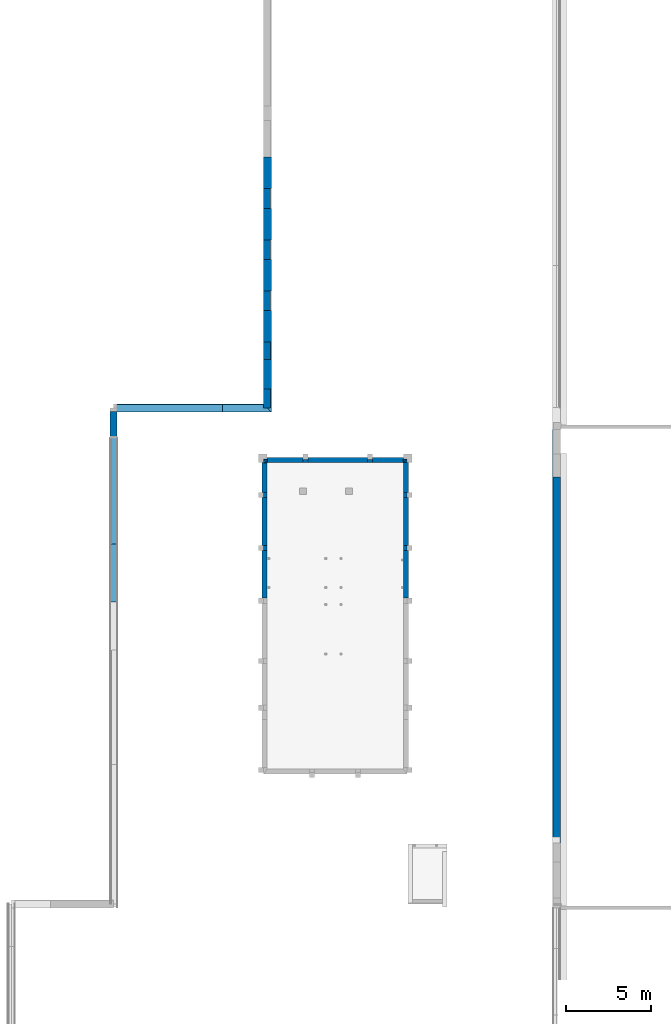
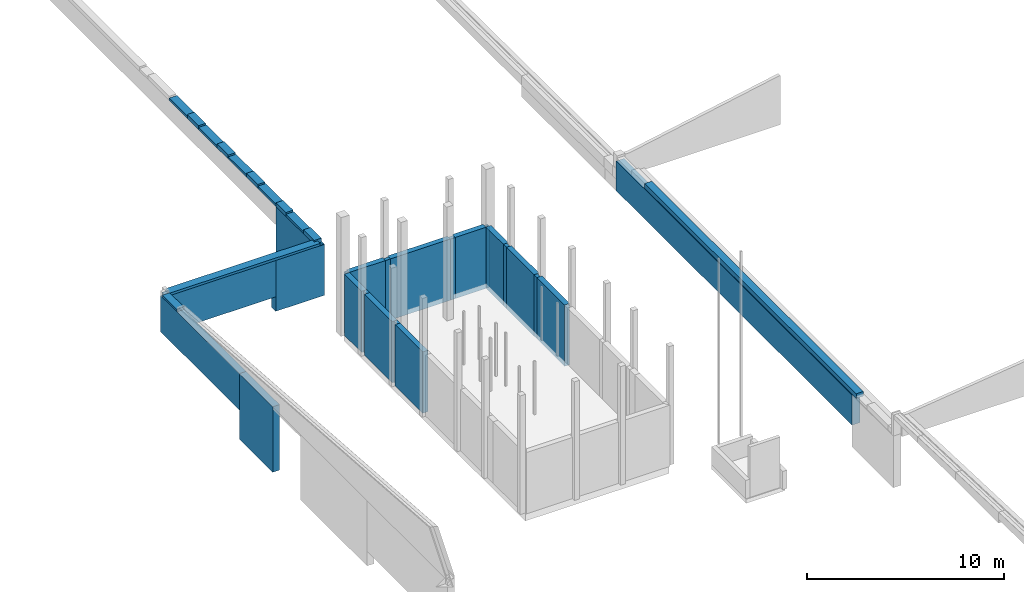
# One storey, part 3 of 17: 38 walls.
"""IFC2X3 building model written with IfcOpenShell, lengths in millimetres."""

import ifcopenshell
import ifcopenshell.guid

model = None  # the IFC model being written
_history = None  # IfcOwnerHistory: only IFC2X3 demands one
_inside = {}  # id of a spatial element -> (the spatial element, [elements in it])
_under = {}  # id of a project, library or spatial element -> (it, [spatial elements below it])
_declared = {}  # id of a project -> (the project, [libraries it declares])
_typed = {}  # id of a type object -> (the type object, [elements of that type])
_made_of = {}  # id of a material, layer set ... -> (it, [elements and type objects made of it])


def new_model(schema):
    """Start an empty IFC model of exactly this schema.

    Asked for "IFC4X3", IfcOpenShell would pick the latest addendum, in which some entities
    have other attributes; the version numbers below select the first issue.
    IFC2X3 requires an IfcOwnerHistory on every rooted entity: one is made here for all.
    """
    global model, _history
    if schema == "IFC4X3":
        model = ifcopenshell.file(schema_version=(4, 3, 0, 0))
    else:
        model = ifcopenshell.file(schema=schema)
    _inside.clear()
    _under.clear()
    _declared.clear()
    _typed.clear()
    _made_of.clear()
    _history = None
    if model.schema == "IFC2X3":
        org = make("IfcOrganization", Name="unknown")
        user = make(
            "IfcPersonAndOrganization",
            ThePerson=make("IfcPerson", FamilyName="unknown"),
            TheOrganization=org,
        )
        app = make(
            "IfcApplication",
            ApplicationDeveloper=org,
            Version="unknown",
            ApplicationFullName="unknown",
            ApplicationIdentifier="unknown",
        )
        _history = make(
            "IfcOwnerHistory",
            OwningUser=user,
            OwningApplication=app,
            ChangeAction="ADDED",
            CreationDate=0,
        )
    return model


def make(cls, **values):
    """One entity of the class cls with the attributes given. An attribute that is None is left unset."""
    return model.create_entity(
        cls, **{name: value for name, value in values.items() if value is not None}
    )


def entity(cls, *values):
    """Any entity or typed value of the class cls, its attributes in the order of the schema. None: left unset."""
    e = model.create_entity(cls)
    for i, value in enumerate(values):
        if value is not None:
            e[i] = value
    return e


def rooted(cls, **values):
    """An entity with a GlobalId (a new one), such as an element, a storey or a relation."""
    return make(cls, GlobalId=ifcopenshell.guid.new(), OwnerHistory=_history, **values)


def si_unit(unit_type, name, prefix=None):
    """IfcSIUnit, for example si_unit("LENGTHUNIT", "METRE", prefix="MILLI")."""
    return make("IfcSIUnit", UnitType=unit_type, Prefix=prefix, Name=name)


def converted_unit(unit_type, name, factor, base, dimensions=None, offset=None):
    """IfcConversionBasedUnit, such as the inch: factor (a typed value) times the base unit."""
    return make(
        "IfcConversionBasedUnit"
        if offset is None
        else "IfcConversionBasedUnitWithOffset",
        ConversionOffset=offset,
        Dimensions=None
        if dimensions is None
        else entity("IfcDimensionalExponents", *dimensions),
        UnitType=unit_type,
        Name=name,
        ConversionFactor=make(
            "IfcMeasureWithUnit", ValueComponent=factor, UnitComponent=base
        ),
    )


def derived_unit(unit_type, elements):
    """IfcDerivedUnit: a product of units, each with its exponent."""
    return make(
        "IfcDerivedUnit",
        Elements=[
            make("IfcDerivedUnitElement", Unit=unit, Exponent=power)
            for unit, power in elements
        ],
        UnitType=unit_type,
    )


def money_unit(currency):
    """IfcMonetaryUnit."""
    return make("IfcMonetaryUnit", Currency=currency)


def assignment(units):
    """IfcUnitAssignment: the units of a project."""
    return None if units is None else make("IfcUnitAssignment", Units=units)


def point(xyz):
    """IfcCartesianPoint."""
    return None if xyz is None else make("IfcCartesianPoint", Coordinates=xyz)


def direction(xyz):
    """IfcDirection."""
    return None if xyz is None else make("IfcDirection", DirectionRatios=xyz)


def frame(location, z_axis=None, x_axis=None):
    """IfcAxis2Placement3D, a coordinate frame: its origin and axes. An axis left out is left unset."""
    return make(
        "IfcAxis2Placement3D",
        Location=point(location),
        Axis=direction(z_axis),
        RefDirection=direction(x_axis),
    )


def origin_with_axes():
    """The frame at (0, 0, 0) with the z axis (0, 0, 1) and the x axis (1, 0, 0) written out."""
    return frame((0.0, 0.0, 0.0), z_axis=(0.0, 0.0, 1.0), x_axis=(1.0, 0.0, 0.0))


def place(relative_to, where):
    """IfcLocalPlacement: puts the frame where relative to a parent placement (None: the world)."""
    return make(
        "IfcLocalPlacement", PlacementRelTo=relative_to, RelativePlacement=where
    )


def context(
    kind, dimensions, precision=None, world=None, true_north=None, identifier=None
):
    """IfcGeometricRepresentationContext, for example the 3D "Model" context."""
    return make(
        "IfcGeometricRepresentationContext",
        ContextIdentifier=identifier,
        ContextType=kind,
        CoordinateSpaceDimension=dimensions,
        Precision=precision,
        WorldCoordinateSystem=world,
        TrueNorth=true_north,
    )


def subcontext(parent, identifier, kind, view, scale=None):
    """IfcGeometricRepresentationSubContext, for example "Body" below "Model"."""
    return make(
        "IfcGeometricRepresentationSubContext",
        ContextIdentifier=identifier,
        ContextType=kind,
        ParentContext=parent,
        TargetScale=scale,
        TargetView=view,
    )


def project(units=None, contexts=None):
    """IfcProject with its units and contexts."""
    return rooted(
        "IfcProject",
        Name="project",
        RepresentationContexts=contexts,
        UnitsInContext=assignment(units),
    )


def spatial(cls, under=None, at=None, **own):
    """A site, building, storey or space (cls), placed at a placement, below another one or the project."""
    s = rooted(cls, ObjectPlacement=at, **own)
    if under is not None:
        _under.setdefault(under.id(), (under, []))[1].append(s)
    return s


def polyline(points):
    """IfcPolyline through the points."""
    return make("IfcPolyline", Points=[point(p) for p in points])


def outline(outer, holes=None, kind="AREA"):
    """IfcArbitraryClosedProfileDef: a profile drawn as a closed curve; with holes, ...WithVoids."""
    if holes is None:
        return make("IfcArbitraryClosedProfileDef", ProfileType=kind, OuterCurve=outer)
    return make(
        "IfcArbitraryProfileDefWithVoids",
        ProfileType=kind,
        OuterCurve=outer,
        InnerCurves=holes,
    )


def extrude(swept, where, along, depth):
    """IfcExtrudedAreaSolid: the profile swept, set in the frame where, extruded along a direction by depth."""
    return make(
        "IfcExtrudedAreaSolid",
        SweptArea=swept,
        Position=where,
        ExtrudedDirection=direction(along),
        Depth=depth,
    )


def shape(context_of_items, identifier, shape_type, items):
    """IfcShapeRepresentation: the items that make up one representation, for example the "Body"."""
    return make(
        "IfcShapeRepresentation",
        ContextOfItems=context_of_items,
        RepresentationIdentifier=identifier,
        RepresentationType=shape_type,
        Items=items,
    )


def material(Name=None, Category=None):
    """IfcMaterial."""
    return make("IfcMaterial", Name=Name, Category=Category)


def layer(
    of_material, thickness, ventilated=None, Name=None, Category=None, Priority=None
):
    """IfcMaterialLayer: one layer of a wall or slab, of a material (None: an air gap)."""
    return make(
        "IfcMaterialLayer",
        Material=of_material,
        LayerThickness=thickness,
        IsVentilated=ventilated,
        Name=Name,
        Category=Category,
        Priority=Priority,
    )


def layer_set(layers, Name=None):
    """IfcMaterialLayerSet."""
    return make("IfcMaterialLayerSet", MaterialLayers=layers, LayerSetName=Name)


def layer_usage(for_layer_set, set_direction, sense, offset, extent=None):
    """IfcMaterialLayerSetUsage: how a layer set lies in its element."""
    return make(
        "IfcMaterialLayerSetUsage",
        ForLayerSet=for_layer_set,
        LayerSetDirection=set_direction,
        DirectionSense=sense,
        OffsetFromReferenceLine=offset,
        ReferenceExtent=extent,
    )


def made_of(thing, what):
    """Note that an element or type object is made of a material, layer set ...; save() writes the relation."""
    if what is not None:
        _made_of.setdefault(what.id(), (what, []))[1].append(thing)
    return thing


def type_object(cls, material=None, **own):
    """A type object (cls), such as IfcWallType, which elements share."""
    return made_of(rooted(cls, **own), material)


def element(
    cls,
    number,
    at=None,
    inside=None,
    cuts=None,
    type_object=None,
    material=None,
    context=None,
    identifier="Body",
    shape_type=None,
    held_by="IfcProductDefinitionShape",
    body=None,
    shapes=None,
    **own,
):
    """One element of the class cls, such as IfcWall. Its Tag is "e" and its number.

    at: its placement. inside: the storey or other place that contains it. cuts: it is an
    opening in that element (IfcRelVoidsElement). A single representation is given by context,
    identifier, shape_type and body (its items); several are given by shapes. held_by: the class
    of the entity that holds the representations. save() writes the other relations.
    """
    e = rooted(cls, Tag="e%d" % number, ObjectPlacement=at, **own)
    if body is not None:
        shapes = [shape(context, identifier, shape_type, body)]
    if shapes is not None:
        e.Representation = make(held_by, Representations=shapes)
    if inside is not None:
        _inside.setdefault(inside.id(), (inside, []))[1].append(e)
    if cuts is not None:
        rooted(
            "IfcRelVoidsElement", RelatingBuildingElement=cuts, RelatedOpeningElement=e
        )
    if type_object is not None:
        _typed.setdefault(type_object.id(), (type_object, []))[1].append(e)
    return made_of(e, material)


def aggregate(whole, parts):
    """IfcRelAggregates: a whole, such as a stair, and the parts it consists of."""
    return rooted("IfcRelAggregates", RelatingObject=whole, RelatedObjects=parts)


def save(model, path):
    """Write the relations noted so far, then the file.

    IfcRelAggregates (storeys below a building ...), IfcRelContainedInSpatialStructure (elements
    in a storey), IfcRelDefinesByType, IfcRelAssociatesMaterial and IfcRelDeclares: one each for
    every whole, place, type object, material and project.
    """
    for whole, parts in _under.values():
        aggregate(whole, parts)
    for where, things in _inside.values():
        rooted(
            "IfcRelContainedInSpatialStructure",
            RelatedElements=things,
            RelatingStructure=where,
        )
    for kind, things in _typed.values():
        rooted("IfcRelDefinesByType", RelatedObjects=things, RelatingType=kind)
    for what, things in _made_of.values():
        rooted("IfcRelAssociatesMaterial", RelatedObjects=things, RelatingMaterial=what)
    for by, libraries in _declared.values():
        rooted("IfcRelDeclares", RelatingContext=by, RelatedDefinitions=libraries)
    model.write(path)


model = new_model("IFC2X3")

# Units and contexts
model_context = context("Model", 3, precision=0.01, world=origin_with_axes(), true_north=direction((0.0, 1.0)))
body_context = subcontext(model_context, "Body", "Model", "MODEL_VIEW")
ifc_project = project(units=[si_unit("LENGTHUNIT", "METRE", prefix="MILLI"), si_unit("AREAUNIT", "SQUARE_METRE"), si_unit("VOLUMEUNIT", "CUBIC_METRE"), converted_unit("PLANEANGLEUNIT", "DEGREE", entity("IfcPlaneAngleMeasure", 0.0174532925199), si_unit("PLANEANGLEUNIT", "RADIAN"), dimensions=[0, 0, 0, 0, 0, 0, 0]), si_unit("SOLIDANGLEUNIT", "STERADIAN"), money_unit("EUR"), converted_unit("TIMEUNIT", "Year", entity("IfcTimeMeasure", 31556926.0), si_unit("TIMEUNIT", "SECOND"), dimensions=[0, 0, 1, 0, 0, 0, 0]), si_unit("MASSUNIT", "GRAM", prefix="KILO"), si_unit("THERMODYNAMICTEMPERATUREUNIT", "DEGREE_CELSIUS"), si_unit("LUMINOUSINTENSITYUNIT", "LUMEN"), si_unit("ENERGYUNIT", "JOULE", prefix="MEGA"), derived_unit("THERMALCONDUCTANCEUNIT", [(si_unit("POWERUNIT", "WATT"), 1), (si_unit("LENGTHUNIT", "METRE"), -1), (si_unit("THERMODYNAMICTEMPERATUREUNIT", "KELVIN"), -1)]), derived_unit("SPECIFICHEATCAPACITYUNIT", [(si_unit("ENERGYUNIT", "JOULE"), 1), (si_unit("MASSUNIT", "GRAM", prefix="KILO"), -1), (si_unit("THERMODYNAMICTEMPERATUREUNIT", "KELVIN"), -1)]), derived_unit("MASSDENSITYUNIT", [(si_unit("MASSUNIT", "GRAM", prefix="KILO"), 1), (si_unit("VOLUMEUNIT", "CUBIC_METRE"), -1)])], contexts=[model_context])

# Site, building, storey
site_placement = place(None, origin_with_axes())
site = spatial("IfcSite", under=ifc_project, at=site_placement, Name="Puškini 31, Narva", CompositionType="ELEMENT")
building_placement = place(site_placement, origin_with_axes())
building = spatial("IfcBuilding", under=site, at=building_placement, Name="Narva Riigigümnaasium", CompositionType="ELEMENT")
storey_placement = place(building_placement, frame((0.0, 0.0, -6800.0), z_axis=(0.0, 0.0, 1.0), x_axis=(1.0, 0.0, 0.0)))
storey = spatial("IfcBuildingStorey", under=building, at=storey_placement, Name="0.korrus -6.8", CompositionType="ELEMENT", Elevation=-6800.0)

# Walls
ifc_material_1 = material(Name="Betoon element")
ifc_layer_1 = layer(ifc_material_1, 200.0, ventilated="UNKNOWN")
ifc_layer_set_1 = layer_set([ifc_layer_1], Name="G-SS-01")
ifc_layer_usage_1 = layer_usage(ifc_layer_set_1, "AXIS2", "NEGATIVE", 0.0)
wall_type_1 = type_object("IfcWallType", Name="G-SS-01 200", PredefinedType="NOTDEFINED")
wall_1_placement = place(storey_placement, frame((37000.0003625, 220780.000218, -290.0), z_axis=(0.0, 0.0, 1.0), x_axis=(-7.28230849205e-07, 1.0, 0.0)))
element("IfcWallStandardCase", 1, at=wall_1_placement, inside=storey, type_object=wall_type_1, material=ifc_layer_usage_1, Name="Sisesein", context=body_context, shape_type="SweptSolid", body=[
    extrude(outline(polyline([(0.0, -200.0), (199.999774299, 0.0), (0.0, 0.0), (0.0, -200.0)])), origin_with_axes(), (0.0, 0.0, 1.0), 3790.0),
])
wall_2_placement = place(storey_placement, frame((43100.0000489, 220979.999993, -290.0), z_axis=(0.0, 0.0, 1.0), x_axis=(1.0, 0.0, 0.0)))
element("IfcWallStandardCase", 2, at=wall_2_placement, inside=storey, type_object=wall_type_1, material=ifc_layer_usage_1, Name="Sisesein", context=body_context, shape_type="SweptSolid", body=[
    extrude(outline(polyline([(0.0, -200.0), (299.999997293, -200.0), (299.999999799, 0.0), (0.0, 0.0), (0.0, -200.0)])), origin_with_axes(), (0.0, 0.0, 1.0), 3790.0),
])
wall_3_placement = place(storey_placement, frame((39300.0042864, 220979.999993, -290.0), z_axis=(0.0, 0.0, 1.0), x_axis=(1.0, 0.0, 0.0)))
element("IfcWallStandardCase", 3, at=wall_3_placement, inside=storey, type_object=wall_type_1, material=ifc_layer_usage_1, Name="Sisesein", context=body_context, shape_type="SweptSolid", body=[
    extrude(outline(polyline([(0.0, -200.0), (299.999955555, -200.0), (299.999955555, 0.0), (0.0, 0.0), (0.0, -200.0)])), origin_with_axes(), (0.0, 0.0, 1.0), 3790.0),
])
wall_4_placement = place(storey_placement, frame((45200.0001257, 220979.999948, -290.0), z_axis=(0.0, 0.0, 1.0), x_axis=(1.0, 2.25603473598e-07, 0.0)))
element("IfcWallStandardCase", 4, at=wall_4_placement, inside=storey, type_object=wall_type_1, material=ifc_layer_usage_1, Name="Sisesein", context=body_context, shape_type="SweptSolid", body=[
    extrude(outline(polyline([(-2.50670595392e-05, -200.0), (199.999960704, 0.0), (0.0, 0.0), (-2.50670595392e-05, -200.0)])), origin_with_axes(), (0.0, 0.0, 1.0), 3790.0),
])
wall_5_placement = place(storey_placement, frame((45400.0000784, 219029.999938, -290.0), z_axis=(0.0, 0.0, 1.0), x_axis=(2.11335280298e-08, -1.0, 0.0)))
element("IfcWallStandardCase", 5, at=wall_5_placement, inside=storey, type_object=wall_type_1, material=ifc_layer_usage_1, Name="Sisesein", context=body_context, shape_type="SweptSolid", body=[
    extrude(outline(polyline([(-2.47081288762e-06, -200.0), (300.000032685, -200.0), (300.000034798, 0.0), (0.0, 0.0), (-2.47081288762e-06, -200.0)])), origin_with_axes(), (0.0, 0.0, 1.0), 3790.0),
])
wall_6_placement = place(storey_placement, frame((45400.0000848, 215929.999934, -290.0), z_axis=(0.0, 0.0, 1.0), x_axis=(0.0, -1.0, 0.0)))
element("IfcWallStandardCase", 6, at=wall_6_placement, inside=storey, type_object=wall_type_1, material=ifc_layer_usage_1, Name="Sisesein", context=body_context, shape_type="SweptSolid", body=[
    extrude(outline(polyline([(0.0, -200.0), (299.999937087, -200.0), (299.999937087, 0.0), (0.0, 0.0), (0.0, -200.0)])), origin_with_axes(), (0.0, 0.0, 1.0), 3790.0),
])
wall_7_placement = place(storey_placement, frame((37000.0018554, 218730.000218, -290.0), z_axis=(0.0, 0.0, 1.0), x_axis=(-7.28230840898e-07, 1.0, 0.0)))
element("IfcWallStandardCase", 7, at=wall_7_placement, inside=storey, type_object=wall_type_1, material=ifc_layer_usage_1, Name="Sisesein", context=body_context, shape_type="SweptSolid", body=[
    extrude(outline(polyline([(0.0, -200.0), (299.999952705, -200.0), (299.999952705, 0.0), (0.0, 0.0), (0.0, -200.0)])), origin_with_axes(), (0.0, 0.0, 1.0), 3790.0),
])
wall_8_placement = place(storey_placement, frame((37000.0041129, 215630.000218, -290.0), z_axis=(0.0, 0.0, 1.0), x_axis=(-7.28230841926e-07, 1.0, 0.0)))
element("IfcWallStandardCase", 8, at=wall_8_placement, inside=storey, type_object=wall_type_1, material=ifc_layer_usage_1, Name="Sisesein", context=body_context, shape_type="SweptSolid", body=[
    extrude(outline(polyline([(0.0, -200.0), (299.999825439, -200.0), (299.999825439, 0.0), (0.0, 0.0), (0.0, -200.0)])), origin_with_axes(), (0.0, 0.0, 1.0), 3790.0),
])
wall_9_placement = place(storey_placement, frame((37000.0003037, 220979.999993, -290.0), z_axis=(0.0, 0.0, 1.0), x_axis=(1.0, 0.0, 0.0)))
element("IfcWallStandardCase", 9, at=wall_9_placement, inside=storey, type_object=wall_type_1, material=ifc_layer_usage_1, Name="Sisesein", context=body_context, shape_type="SweptSolid", body=[
    extrude(outline(polyline([(200.003965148, -200.0), (200.003965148, 0.0), (-8.68207834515e-05, 0.0), (200.003965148, -200.0)])), origin_with_axes(), (0.0, 0.0, 1.0), 3790.0),
])
wall_10_placement = place(storey_placement, frame((45400.0000864, 220979.999993, -290.0), z_axis=(0.0, 0.0, 1.0), x_axis=(-9.44731467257e-09, -1.0, 0.0)))
element("IfcWallStandardCase", 10, at=wall_10_placement, inside=storey, type_object=wall_type_1, material=ifc_layer_usage_1, Name="Sisesein", context=body_context, shape_type="SweptSolid", body=[
    extrude(outline(polyline([(200.00004701, -200.0), (176.215799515, -200.0), (176.215798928, 0.0), (0.0, 0.0), (200.00004701, -200.0)])), origin_with_axes(), (0.0, 0.0, 1.0), 3790.0),
])
ifc_material_2 = material(Name="Soojustus - EPS")
ifc_layer_2 = layer(ifc_material_2, 100.0, ventilated="UNKNOWN")
ifc_material_3 = material(Name="Salto-siseviimistlus")
ifc_layer_3 = layer(ifc_material_3, 0.0, ventilated="UNKNOWN")
ifc_layer_set_2 = layer_set([ifc_layer_2, ifc_layer_1, ifc_layer_3], Name="G-VS-09")
ifc_layer_usage_2 = layer_usage(ifc_layer_set_2, "AXIS2", "NEGATIVE", 100.0)
wall_type_2 = type_object("IfcWallType", Name="G-VS-09 300", PredefinedType="NOTDEFINED")
wall_11_placement = place(storey_placement, frame((45400.0000848, 220803.784194, -290.0), z_axis=(0.0, 0.0, 1.0), x_axis=(-3.57431244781e-09, -1.0, 0.0)))
element("IfcWallStandardCase", 11, at=wall_11_placement, inside=storey, type_object=wall_type_2, material=ifc_layer_usage_2, Name="Sisesein", context=body_context, shape_type="SweptSolid", body=[
    extrude(outline(polyline([(-5.8730620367e-07, -200.0), (1773.78425802, -200.0), (1773.78425432, 100.0), (2.93653101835e-07, 100.0), (-5.8730620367e-07, -200.0)])), origin_with_axes(), (0.0, 0.0, 1.0), 3790.0),
])
wall_12_placement = place(storey_placement, frame((37000.0016369, 219030.000171, -290.0), z_axis=(0.0, 0.0, 1.0), x_axis=(-7.28230832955e-07, 1.0, 0.0)))
element("IfcWallStandardCase", 12, at=wall_12_placement, inside=storey, type_object=wall_type_2, material=ifc_layer_usage_2, Name="Sisesein", context=body_context, shape_type="SweptSolid", body=[
    extrude(outline(polyline([(0.0, -200.0), (1750.00004729, -200.0), (1750.00004729, 100.0), (0.0, 100.0), (0.0, -200.0)])), origin_with_axes(), (0.0, 0.0, 1.0), 3790.0),
])
wall_13_placement = place(storey_placement, frame((43400.0000487, 220979.999993, -290.0), z_axis=(0.0, 0.0, 1.0), x_axis=(1.0, -2.5067046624e-08, 0.0)))
element("IfcWallStandardCase", 13, at=wall_13_placement, inside=storey, type_object=wall_type_2, material=ifc_layer_usage_2, Name="Sisesein", context=body_context, shape_type="SweptSolid", body=[
    extrude(outline(polyline([(2.50670240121e-06, -200.0), (1800.0001021, -200.0), (1800.0000645, 100.0), (-1.25335475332e-06, 100.0), (2.50670240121e-06, -200.0)])), origin_with_axes(), (0.0, 0.0, 1.0), 3790.0),
])
wall_14_placement = place(storey_placement, frame((39600.004242, 220979.999993, -290.0), z_axis=(0.0, 0.0, 1.0), x_axis=(1.0, 0.0, 0.0)))
element("IfcWallStandardCase", 14, at=wall_14_placement, inside=storey, type_object=wall_type_2, material=ifc_layer_usage_2, Name="Sisesein", context=body_context, shape_type="SweptSolid", body=[
    extrude(outline(polyline([(0.0, -200.0), (3499.99580691, -200.0), (3499.99580691, 100.0), (0.0, 100.0), (0.0, -200.0)])), origin_with_axes(), (0.0, 0.0, 1.0), 3790.0),
])
wall_15_placement = place(storey_placement, frame((37200.0042688, 220979.999993, -290.0), z_axis=(0.0, 0.0, 1.0), x_axis=(1.0, 0.0, 0.0)))
element("IfcWallStandardCase", 15, at=wall_15_placement, inside=storey, type_object=wall_type_2, material=ifc_layer_usage_2, Name="Sisesein", context=body_context, shape_type="SweptSolid", body=[
    extrude(outline(polyline([(0.0, -200.0), (2100.00001764, -200.0), (2100.00001764, 100.0), (0.0, 100.0), (0.0, -200.0)])), origin_with_axes(), (0.0, 0.0, 1.0), 3790.0),
])
wall_16_placement = place(storey_placement, frame((45400.0000848, 218729.999903, -290.0), z_axis=(0.0, 0.0, 1.0), x_axis=(0.0, -1.0, 0.0)))
element("IfcWallStandardCase", 16, at=wall_16_placement, inside=storey, type_object=wall_type_2, material=ifc_layer_usage_2, Name="Sisesein", context=body_context, shape_type="SweptSolid", body=[
    extrude(outline(polyline([(2.11332462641e-06, -200.0), (2799.99996938, -200.0), (2799.99996938, 100.0), (-1.05669073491e-06, 100.0), (2.11332462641e-06, -200.0)])), origin_with_axes(), (0.0, 0.0, 1.0), 3790.0),
])
wall_17_placement = place(storey_placement, frame((45400.0000848, 215629.999997, -290.0), z_axis=(0.0, 0.0, 1.0), x_axis=(0.0, -1.0, 0.0)))
element("IfcWallStandardCase", 17, at=wall_17_placement, inside=storey, type_object=wall_type_2, material=ifc_layer_usage_2, Name="Sisesein", context=body_context, shape_type="SweptSolid", body=[
    extrude(outline(polyline([(0.0, -200.0), (2800.00007073, -200.0), (2800.00007073, 100.0), (0.0, 100.0), (0.0, -200.0)])), origin_with_axes(), (0.0, 0.0, 1.0), 3790.0),
])
wall_18_placement = place(storey_placement, frame((37000.0038944, 215930.000044, -290.0), z_axis=(0.0, 0.0, 1.0), x_axis=(-7.28230834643e-07, 1.0, 0.0)))
element("IfcWallStandardCase", 18, at=wall_18_placement, inside=storey, type_object=wall_type_2, material=ifc_layer_usage_2, Name="Sisesein", context=body_context, shape_type="SweptSolid", body=[
    extrude(outline(polyline([(0.0, -200.0), (2800.00017456, -200.0), (2800.00017456, 100.0), (0.0, 100.0), (0.0, -200.0)])), origin_with_axes(), (0.0, 0.0, 1.0), 3790.0),
])
wall_19_placement = place(storey_placement, frame((37000.0061519, 212830.000218, -290.0), z_axis=(0.0, 0.0, 1.0), x_axis=(-7.28230831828e-07, 1.0, 0.0)))
element("IfcWallStandardCase", 19, at=wall_19_placement, inside=storey, type_object=wall_type_2, material=ifc_layer_usage_2, Name="Sisesein", context=body_context, shape_type="SweptSolid", body=[
    extrude(outline(polyline([(0.0, -200.0), (2800.0, -200.0), (2800.0, 100.0), (0.0, 100.0), (0.0, -200.0)])), origin_with_axes(), (0.0, 0.0, 1.0), 3790.0),
])
ifc_material_4 = material(Name="Krohv")
ifc_layer_4 = layer(ifc_material_4, 10.0, ventilated="UNKNOWN")
ifc_material_5 = material(Name="Salto-PIR soojustus")
ifc_layer_5 = layer(ifc_material_5, 50.0, ventilated="UNKNOWN")
ifc_layer_6 = layer(ifc_material_5, 150.0, ventilated="UNKNOWN")
ifc_layer_7 = layer(ifc_material_3, 10.0, ventilated="UNKNOWN")
ifc_layer_set_3 = layer_set([ifc_layer_4, ifc_layer_5, ifc_layer_6, ifc_layer_1, ifc_layer_7], Name="G-VS-02")
ifc_layer_usage_3 = layer_usage(ifc_layer_set_3, "AXIS2", "NEGATIVE", 210.0)
wall_type_3 = type_object("IfcWallType", Name="G-VS-02 420", PredefinedType="NOTDEFINED")
wall_20_placement = place(storey_placement, frame((54200.000001, 219931.021835, 3350.0), z_axis=(0.0, 0.0, 1.0), x_axis=(0.0, -1.0, 0.0)))
element("IfcWallStandardCase", 20, at=wall_20_placement, inside=storey, type_object=wall_type_3, material=ifc_layer_usage_3, Name="Sisesein", context=body_context, shape_type="SweptSolid", body=[
    extrude(outline(polyline([(0.0, -210.0), (21457.5118002, -210.0), (21457.5118002, 210.0), (0.0, 210.0), (0.0, -210.0)])), origin_with_axes(), (0.0, 0.0, 1.0), 286.939766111),
])
ifc_layer_usage_4 = layer_usage(ifc_layer_set_3, "AXIS2", "POSITIVE", -210.0)
wall_21_placement = place(storey_placement, frame((28200.0401775, 223789.980453, 3350.0), z_axis=(0.0, 0.0, 1.0), x_axis=(0.0, -1.0, 0.0)))
element("IfcWallStandardCase", 21, at=wall_21_placement, inside=storey, type_object=wall_type_3, material=ifc_layer_usage_4, Name="Sisesein", context=body_context, shape_type="SweptSolid", body=[
    extrude(outline(polyline([(0.0, -210.0), (1461.24277045, -210.0), (1461.24277045, 210.0), (0.0, 210.0), (0.0, -210.0)])), origin_with_axes(), (0.0, 0.0, 1.0), 150.0),
])
wall_22_placement = place(storey_placement, frame((37200.0000002, 225096.000005, 3350.0), z_axis=(0.0, 0.0, 1.0), x_axis=(0.0, -1.0, 0.0)))
element("IfcWallStandardCase", 22, at=wall_22_placement, inside=storey, type_object=wall_type_3, material=ifc_layer_usage_4, Name="Välissein", context=body_context, shape_type="SweptSolid", body=[
    extrude(outline(polyline([(0.0, -210.0), (1096.00000763, -210.0), (1096.00000763, 210.0), (0.0, 210.0), (0.0, -210.0)])), origin_with_axes(), (0.0, 0.0, 1.0), 250.0),
])
wall_23_placement = place(storey_placement, frame((37200.0000002, 227859.212578, 3350.0), z_axis=(0.0, 0.0, 1.0), x_axis=(0.0, -1.0, 0.0)))
element("IfcWallStandardCase", 23, at=wall_23_placement, inside=storey, type_object=wall_type_3, material=ifc_layer_usage_4, Name="Välissein", context=body_context, shape_type="SweptSolid", body=[
    extrude(outline(polyline([(0.0, -210.0), (1013.21257351, -210.0), (1013.21257351, 210.0), (0.0, 210.0), (0.0, -210.0)])), origin_with_axes(), (0.0, 0.0, 1.0), 250.0),
])
for number, where, z_axis, x_axis in (
    (24, (37200.0000002, 230859.212578, 3350.0), (0.0, 0.0, 1.0), (0.0, -1.0, 0.0)),
    (25, (37200.0000002, 233859.212578, 3350.0), (0.0, 0.0, 1.0), (0.0, -1.0, 0.0)),
    (26, (37200.0000002, 236859.212578, 3350.0), (0.0, 0.0, 1.0), (0.0, -1.0, 0.0)),
):
    element("IfcWallStandardCase", number, at=place(storey_placement, frame(where, z_axis=z_axis, x_axis=x_axis)), inside=storey, type_object=wall_type_3, material=ifc_layer_usage_4, Name="Välissein", context=body_context, shape_type="SweptSolid", body=[
        extrude(outline(polyline([(0.0, -210.0), (1150.0, -210.0), (1150.0, 210.0), (0.0, 210.0), (0.0, -210.0)])), origin_with_axes(), (0.0, 0.0, 1.0), 250.0),
    ])
ifc_material_6 = material(Name="Betoon_1")
ifc_layer_8 = layer(ifc_material_6, 250.0, ventilated="UNKNOWN")
ifc_layer_set_4 = layer_set([ifc_layer_4, ifc_layer_5, ifc_layer_6, ifc_layer_8, ifc_layer_3], Name="G-VS-05")
ifc_layer_usage_5 = layer_usage(ifc_layer_set_4, "AXIS2", "POSITIVE", -210.0)
wall_type_4 = type_object("IfcWallType", Name="G-VS-05 460", PredefinedType="NOTDEFINED")
wall_24_placement = place(storey_placement, frame((37200.0000002, 224000.0, 3350.0), z_axis=(0.0, 0.0, 1.0), x_axis=(-1.0, 0.0, 0.0)))
element("IfcWallStandardCase", 27, at=wall_24_placement, inside=storey, type_object=wall_type_4, material=ifc_layer_usage_5, Name="Välissein", context=body_context, shape_type="SweptSolid", body=[
    extrude(outline(polyline([(0.0, -210.0), (8789.95952426, -210.0), (8789.95952426, 250.0), (0.0, 250.0), (0.0, -210.0)])), origin_with_axes(), (0.0, 0.0, 1.0), 150.0),
])
wall_25_placement = place(storey_placement, frame((37200.0000002, 226846.000005, 3350.0), z_axis=(0.0, 0.0, 1.0), x_axis=(0.0, -1.0, 0.0)))
element("IfcWallStandardCase", 28, at=wall_25_placement, inside=storey, type_object=wall_type_4, material=ifc_layer_usage_5, Name="Välissein", context=body_context, shape_type="SweptSolid", body=[
    extrude(outline(polyline([(0.0, -210.0), (1750.0, -210.0), (1750.0, 250.0), (0.0, 250.0), (0.0, -210.0)])), origin_with_axes(), (0.0, 0.0, 1.0), 150.0),
])
for number, where, z_axis, x_axis in (
    (29, (37200.0000002, 229709.212578, 3350.0), (0.0, 0.0, 1.0), (0.0, -1.0, 0.0)),
    (30, (37200.0000002, 232709.212578, 3350.0), (0.0, 0.0, 1.0), (0.0, -1.0, 0.0)),
    (31, (37200.0000002, 235709.212578, 3350.0), (0.0, 0.0, 1.0), (0.0, -1.0, 0.0)),
    (32, (37200.0000002, 238709.212578, 3350.0), (0.0, 0.0, 1.0), (0.0, -1.0, 0.0)),
):
    element("IfcWallStandardCase", number, at=place(storey_placement, frame(where, z_axis=z_axis, x_axis=x_axis)), inside=storey, type_object=wall_type_4, material=ifc_layer_usage_5, Name="Välissein", context=body_context, shape_type="SweptSolid", body=[
        extrude(outline(polyline([(0.0, -210.0), (1850.0, -210.0), (1850.0, 250.0), (0.0, 250.0), (0.0, -210.0)])), origin_with_axes(), (0.0, 0.0, 1.0), 150.0),
    ])
ifc_layer_9 = layer(ifc_material_5, 200.0, ventilated="UNKNOWN")
ifc_layer_10 = layer(ifc_material_6, 200.0, ventilated="UNKNOWN")
ifc_layer_set_5 = layer_set([ifc_layer_9, ifc_layer_10, ifc_layer_3], Name="G-VS-07")
ifc_layer_usage_6 = layer_usage(ifc_layer_set_5, "AXIS2", "POSITIVE", -200.0)
wall_type_5 = type_object("IfcWallType", Name="G-VS-07 400", PredefinedType="NOTDEFINED")
wall_26_placement = place(storey_placement, frame((28200.0401775, 224000.0, 1100.0), z_axis=(0.0, 0.0, 1.0), x_axis=(0.0, -1.0, 0.0)))
element("IfcWallStandardCase", 33, at=wall_26_placement, inside=storey, type_object=wall_type_5, material=ifc_layer_usage_6, Name="Sisesein", context=body_context, shape_type="SweptSolid", body=[
    extrude(outline(polyline([(0.0, -200.0), (7985.22376166, -200.0), (7985.22376166, 200.0), (0.0, 200.0), (0.0, -200.0)])), origin_with_axes(), (0.0, 0.0, 1.0), 2250.0),
])
wall_27_placement = place(storey_placement, frame((28200.0401775, 216014.776238, -700.0), z_axis=(0.0, 0.0, 1.0), x_axis=(0.0, -1.0, 0.0)))
element("IfcWallStandardCase", 34, at=wall_27_placement, inside=storey, type_object=wall_type_5, material=ifc_layer_usage_6, Name="Sisesein", context=body_context, shape_type="SweptSolid", body=[
    extrude(outline(polyline([(0.0, -200.0), (3394.77623696, -200.0), (3394.77623696, 200.0), (0.0, 200.0), (0.0, -200.0)])), origin_with_axes(), (0.0, 0.0, 1.0), 4050.0),
])
ifc_layer_set_6 = layer_set([ifc_layer_9, ifc_layer_8, ifc_layer_3], Name="G-VS-06")
ifc_layer_usage_7 = layer_usage(ifc_layer_set_6, "AXIS2", "NEGATIVE", 200.0)
wall_type_6 = type_object("IfcWallType", Name="G-VS-06 450", PredefinedType="NOTDEFINED")
wall_28_placement = place(storey_placement, frame((54200.000001, 222741.244262, 1500.0), z_axis=(0.0, 0.0, 1.0), x_axis=(0.0, -1.0, 0.0)))
element("IfcWallStandardCase", 35, at=wall_28_placement, inside=storey, type_object=wall_type_6, material=ifc_layer_usage_7, Name="Sisesein", context=body_context, shape_type="SweptSolid", body=[
    extrude(outline(polyline([(0.0, -250.0), (23921.2442618, -250.0), (23921.2442618, 200.0), (0.0, 200.0), (0.0, -250.0)])), origin_with_axes(), (0.0, 0.0, 1.0), 1850.0),
])
ifc_layer_usage_8 = layer_usage(ifc_layer_set_6, "AXIS2", "POSITIVE", -200.0)
wall_29_placement = place(storey_placement, frame((37200.0000002, 227859.212578, 200.0), z_axis=(0.0, 0.0, 1.0), x_axis=(0.0, -1.0, 0.0)))
element("IfcWallStandardCase", 36, at=wall_29_placement, inside=storey, type_object=wall_type_6, material=ifc_layer_usage_8, Name="Välissein", context=body_context, shape_type="SweptSolid", body=[
    extrude(outline(polyline([(0.0, -200.0), (3659.2125778, -200.0), (4109.2125778, 250.0), (0.0, 250.0), (0.0, -200.0)])), origin_with_axes(), (0.0, 0.0, 1.0), 3150.0),
])
wall_30_placement = place(storey_placement, frame((34600.0155841, 224000.0, 1100.0), z_axis=(0.0, 0.0, 1.0), x_axis=(-1.0, 0.0, 0.0)))
element("IfcWallStandardCase", 37, at=wall_30_placement, inside=storey, type_object=wall_type_6, material=ifc_layer_usage_8, Name="Välissein", context=body_context, shape_type="SweptSolid", body=[
    extrude(outline(polyline([(0.0, -200.0), (6399.97540664, -200.0), (6399.97540664, 250.0), (0.0, 250.0), (0.0, -200.0)])), origin_with_axes(), (0.0, 0.0, 1.0), 2250.0),
])
wall_31_placement = place(storey_placement, frame((37200.0000002, 224000.0, 200.0), z_axis=(0.0, 0.0, 1.0), x_axis=(-1.0, 0.0, 0.0)))
element("IfcWallStandardCase", 38, at=wall_31_placement, inside=storey, type_object=wall_type_6, material=ifc_layer_usage_8, Name="Välissein", context=body_context, shape_type="SweptSolid", body=[
    extrude(outline(polyline([(200.0, -200.0), (2599.98441603, -200.0), (2599.98441603, 250.0), (-250.0, 250.0), (200.0, -200.0)])), origin_with_axes(), (0.0, 0.0, 1.0), 3150.0),
])

save(model, "model.ifc")
